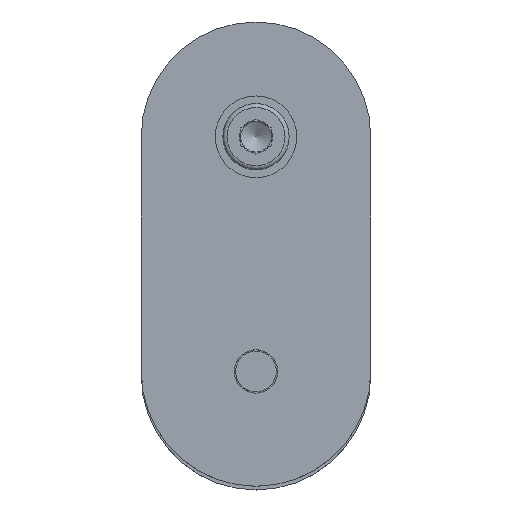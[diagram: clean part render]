
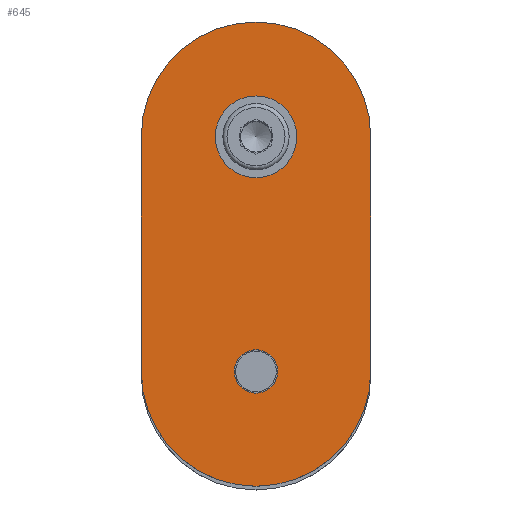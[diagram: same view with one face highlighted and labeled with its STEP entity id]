
A CAD part, top view. The second image highlights one B-rep face of the part: STEP entity #645.
In plain terms, the highlighted planar face has unit normal (0, 0, 1).
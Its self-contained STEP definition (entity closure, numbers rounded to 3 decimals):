
#1 = ORIENTED_EDGE ( 'NONE', *, *, #1709, .T. ) ;
#18 = AXIS2_PLACEMENT_3D ( 'NONE', #1058, #1373, #752 ) ;
#159 = EDGE_CURVE ( 'NONE', #1153, #1153, #1479, .T. ) ;
#171 = DIRECTION ( 'NONE',  ( 0., 1., 0. ) ) ;
#193 = VERTEX_POINT ( 'NONE', #1190 ) ;
#208 = ORIENTED_EDGE ( 'NONE', *, *, #938, .T. ) ;
#251 = DIRECTION ( 'NONE',  ( 1., 0., 0. ) ) ;
#281 = ORIENTED_EDGE ( 'NONE', *, *, #1908, .F. ) ;
#324 = DIRECTION ( 'NONE',  ( 1., 0., 0. ) ) ;
#329 = EDGE_LOOP ( 'NONE', ( #833 ) ) ;
#423 = VERTEX_POINT ( 'NONE', #1233 ) ;
#455 = AXIS2_PLACEMENT_3D ( 'NONE', #1953, #1771, #324 ) ;
#469 = DIRECTION ( 'NONE',  ( 0., 0., 1. ) ) ;
#478 = ORIENTED_EDGE ( 'NONE', *, *, #991, .T. ) ;
#532 = DIRECTION ( 'NONE',  ( 0., -1., 0. ) ) ;
#561 = AXIS2_PLACEMENT_3D ( 'NONE', #893, #1721, #1537 ) ;
#594 = CARTESIAN_POINT ( 'NONE',  ( 22.5, -46., 8. ) ) ;
#625 = AXIS2_PLACEMENT_3D ( 'NONE', #1803, #469, #943 ) ;
#645 = ADVANCED_FACE ( 'NONE', ( #1801, #2102, #1113 ), #1790, .T. ) ;
#649 = ORIENTED_EDGE ( 'NONE', *, *, #1659, .T. ) ;
#752 = DIRECTION ( 'NONE',  ( -1., 0., 0. ) ) ;
#755 = EDGE_LOOP ( 'NONE', ( #281 ) ) ;
#810 = LINE ( 'NONE', #1998, #965 ) ;
#833 = ORIENTED_EDGE ( 'NONE', *, *, #159, .F. ) ;
#839 = CARTESIAN_POINT ( 'NONE',  ( 45., -46., 8. ) ) ;
#893 = CARTESIAN_POINT ( 'NONE',  ( 22.5, -46., 8. ) ) ;
#932 = VECTOR ( 'NONE', #532, 1000. ) ;
#938 = EDGE_CURVE ( 'NONE', #1695, #423, #1936, .T. ) ;
#943 = DIRECTION ( 'NONE',  ( 1., 0., 0. ) ) ;
#965 = VECTOR ( 'NONE', #171, 1000. ) ;
#991 = EDGE_CURVE ( 'NONE', #2056, #1604, #1487, .T. ) ;
#1058 = CARTESIAN_POINT ( 'NONE',  ( 22.5, 0., 8. ) ) ;
#1104 = AXIS2_PLACEMENT_3D ( 'NONE', #594, #1725, #251 ) ;
#1113 = FACE_BOUND ( 'NONE', #755, .T. ) ;
#1153 = VERTEX_POINT ( 'NONE', #1818 ) ;
#1190 = CARTESIAN_POINT ( 'NONE',  ( 26.75, -46., 8. ) ) ;
#1233 = CARTESIAN_POINT ( 'NONE',  ( 0., 0., 8. ) ) ;
#1269 = CARTESIAN_POINT ( 'NONE',  ( 0., -46., 8. ) ) ;
#1373 = DIRECTION ( 'NONE',  ( 0., 0., 1. ) ) ;
#1479 = CIRCLE ( 'NONE', #625, 4.25 ) ;
#1487 = CIRCLE ( 'NONE', #561, 22.5 ) ;
#1489 = EDGE_LOOP ( 'NONE', ( #478, #1, #208, #649 ) ) ;
#1537 = DIRECTION ( 'NONE',  ( 1., 0., 0. ) ) ;
#1604 = VERTEX_POINT ( 'NONE', #839 ) ;
#1640 = CARTESIAN_POINT ( 'NONE',  ( 0., 0., 8. ) ) ;
#1652 = LINE ( 'NONE', #1640, #932 ) ;
#1659 = EDGE_CURVE ( 'NONE', #423, #2056, #1652, .T. ) ;
#1665 = CIRCLE ( 'NONE', #1104, 4.25 ) ;
#1695 = VERTEX_POINT ( 'NONE', #1816 ) ;
#1709 = EDGE_CURVE ( 'NONE', #1604, #1695, #810, .T. ) ;
#1721 = DIRECTION ( 'NONE',  ( 0., 0., 1. ) ) ;
#1725 = DIRECTION ( 'NONE',  ( 0., 0., 1. ) ) ;
#1771 = DIRECTION ( 'NONE',  ( 0., 0., 1. ) ) ;
#1790 = PLANE ( 'NONE',  #455 ) ;
#1801 = FACE_BOUND ( 'NONE', #329, .T. ) ;
#1803 = CARTESIAN_POINT ( 'NONE',  ( 22.5, 0., 8. ) ) ;
#1816 = CARTESIAN_POINT ( 'NONE',  ( 45., 0., 8. ) ) ;
#1818 = CARTESIAN_POINT ( 'NONE',  ( 26.75, 0., 8. ) ) ;
#1908 = EDGE_CURVE ( 'NONE', #193, #193, #1665, .T. ) ;
#1936 = CIRCLE ( 'NONE', #18, 22.5 ) ;
#1953 = CARTESIAN_POINT ( 'NONE',  ( 22.5, -46., 8. ) ) ;
#1998 = CARTESIAN_POINT ( 'NONE',  ( 45., 0., 8. ) ) ;
#2056 = VERTEX_POINT ( 'NONE', #1269 ) ;
#2102 = FACE_OUTER_BOUND ( 'NONE', #1489, .T. ) ;
